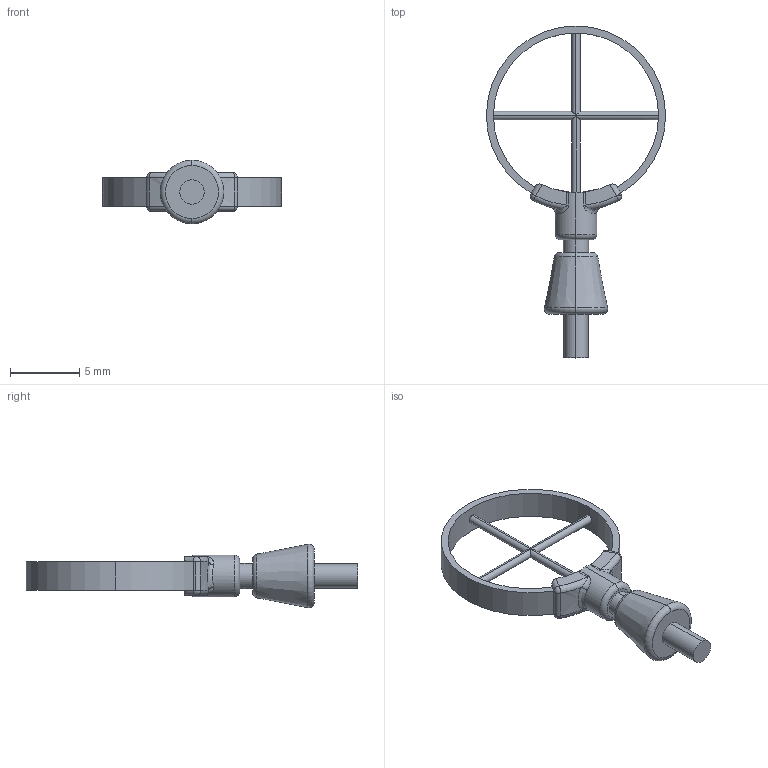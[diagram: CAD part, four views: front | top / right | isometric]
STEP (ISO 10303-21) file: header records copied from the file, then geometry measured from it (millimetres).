
FILE_DESCRIPTION (( 'STEP AP203' ), '1' );
FILE_NAME ('japanese-gun-001-end-sight-small.STEP', '2013-11-16T22:54:03', ( 'Kirk' ), ( 'Microsoft' ), 'SwSTEP 2.0', 'SolidWorks 2012', '' );
FILE_SCHEMA (( 'CONFIG_CONTROL_DESIGN' ));
Length unit declared in the file: inch
Products named in the file (1): japanese-gun-001-end-sight-small
Bounding box: 12.95 x 24 x 4.6 mm (x, y, z)
Volume: 136.9 mm3; surface area: 391.1 mm2
Topology: 1 solids, 2 shells, 80 faces, 185 edges, 106 vertices
Faces by surface type: cylinder 39, plane 17, torus 10, sphere 6, bspline 6, cone 2
Entity records: 2686 total; most frequent: CARTESIAN_POINT 826, DIRECTION 387, ORIENTED_EDGE 370, EDGE_CURVE 185, AXIS2_PLACEMENT_3D 161, VERTEX_POINT 106, CIRCLE 86, EDGE_LOOP 85
